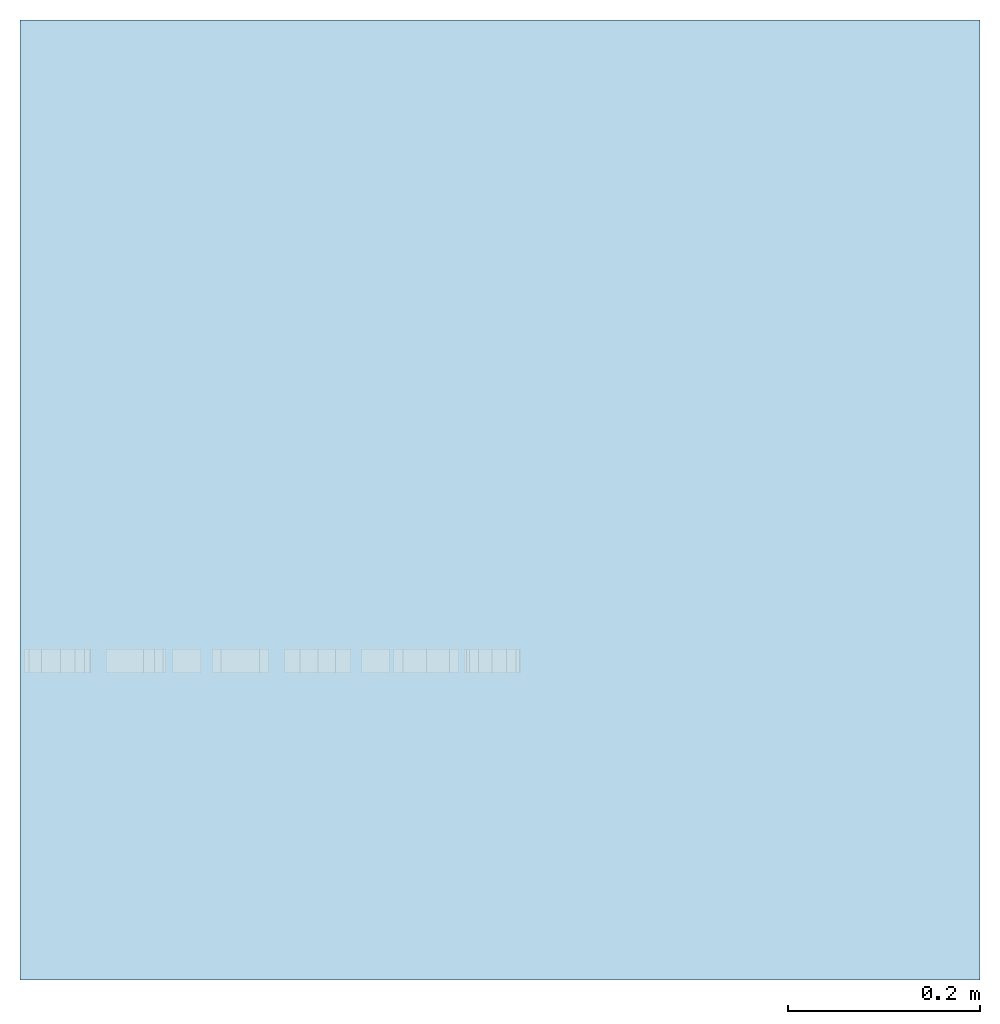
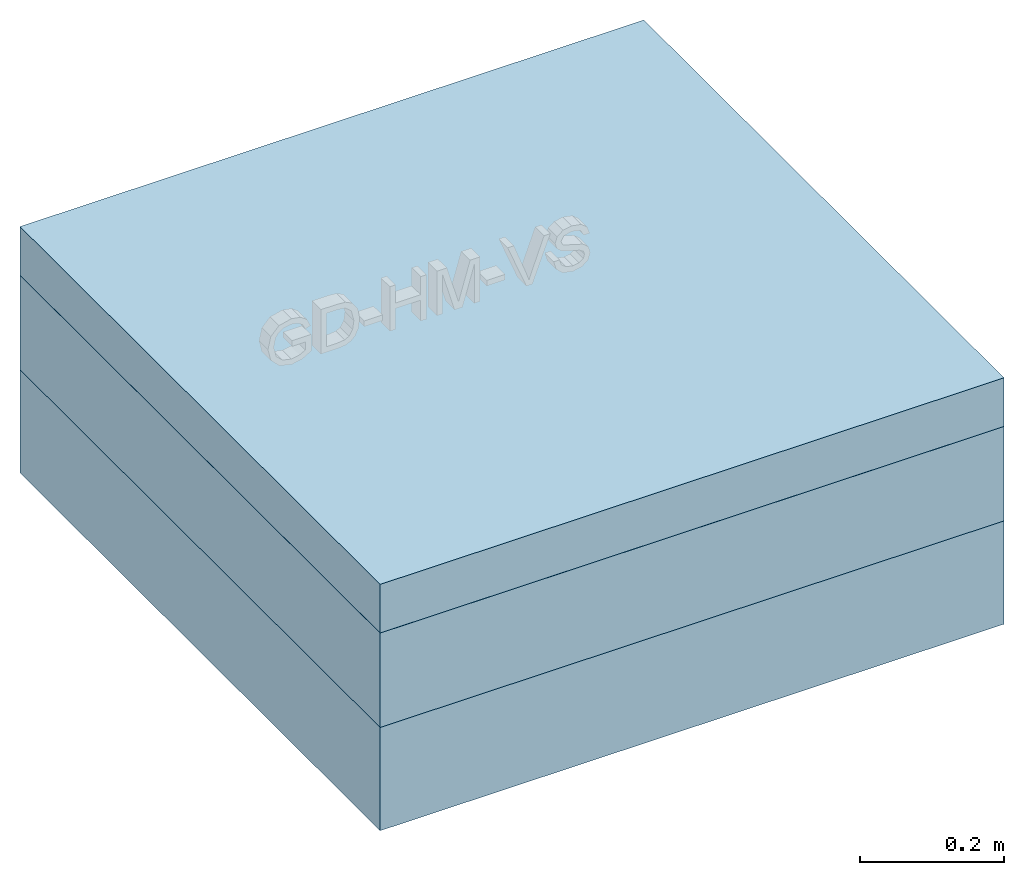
# Not in any storey, part 1 of 2: 3 slabs, 1 element without a shape of its own.
"""IFC4 model written with IfcOpenShell, lengths in metres."""

from ifc_helpers import new_model, entity, si_unit, converted_unit, derived_unit, direction, frame, origin, place, context, subcontext, project, spatial, indexed_curve, outline, extrude, material, constituent, constituent_set, type_object, element, aggregate, save


model = new_model("IFC4")

# Units and contexts
model_context = context("Model", 3, precision=1e-05, world=origin(), true_north=direction((6.123031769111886e-17, 1.0)))
body_context = subcontext(model_context, "Body", "Model", "MODEL_VIEW")
ifc_project = project(units=[si_unit("LENGTHUNIT", "METRE"), si_unit("AREAUNIT", "SQUARE_METRE"), si_unit("VOLUMEUNIT", "CUBIC_METRE"), converted_unit("PLANEANGLEUNIT", "DEGREE", entity("IfcRatioMeasure", 0.017453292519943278), si_unit("PLANEANGLEUNIT", "RADIAN"), dimensions=[0, 0, 0, 0, 0, 0, 0]), si_unit("MASSUNIT", "GRAM", prefix="KILO"), derived_unit("MASSDENSITYUNIT", [(si_unit("MASSUNIT", "GRAM", prefix="KILO"), 1), (si_unit("LENGTHUNIT", "METRE"), -3)]), derived_unit("IONCONCENTRATIONUNIT", [(si_unit("MASSUNIT", "GRAM", prefix="KILO"), 1), (si_unit("LENGTHUNIT", "METRE"), -3)]), derived_unit("MOMENTOFINERTIAUNIT", [(si_unit("LENGTHUNIT", "METRE"), 4)]), si_unit("TIMEUNIT", "SECOND"), si_unit("FREQUENCYUNIT", "HERTZ"), si_unit("THERMODYNAMICTEMPERATUREUNIT", "DEGREE_CELSIUS"), derived_unit("THERMALTRANSMITTANCEUNIT", [(si_unit("MASSUNIT", "GRAM", prefix="KILO"), 1), (si_unit("THERMODYNAMICTEMPERATUREUNIT", "KELVIN"), -1), (si_unit("TIMEUNIT", "SECOND"), -3)]), derived_unit("THERMALCONDUCTANCEUNIT", [(si_unit("MASSUNIT", "GRAM", prefix="KILO"), 1), (si_unit("THERMODYNAMICTEMPERATUREUNIT", "KELVIN"), -1), (si_unit("TIMEUNIT", "SECOND"), -3), (si_unit("LENGTHUNIT", "METRE"), 1)]), derived_unit("VOLUMETRICFLOWRATEUNIT", [(si_unit("LENGTHUNIT", "METRE"), 3), (si_unit("TIMEUNIT", "SECOND"), -1)]), derived_unit("MASSFLOWRATEUNIT", [(si_unit("MASSUNIT", "GRAM", prefix="KILO"), 1), (si_unit("TIMEUNIT", "SECOND"), -1)]), derived_unit("ROTATIONALFREQUENCYUNIT", [(si_unit("TIMEUNIT", "SECOND"), -1)]), si_unit("ELECTRICCURRENTUNIT", "AMPERE"), si_unit("ELECTRICVOLTAGEUNIT", "VOLT"), si_unit("POWERUNIT", "WATT"), si_unit("FORCEUNIT", "NEWTON", prefix="KILO"), si_unit("ILLUMINANCEUNIT", "LUX"), si_unit("LUMINOUSFLUXUNIT", "LUMEN"), si_unit("LUMINOUSINTENSITYUNIT", "CANDELA"), derived_unit("USERDEFINED", [(si_unit("MASSUNIT", "GRAM", prefix="KILO"), -1), (si_unit("LENGTHUNIT", "METRE"), -2), (si_unit("TIMEUNIT", "SECOND"), 3), (si_unit("LUMINOUSFLUXUNIT", "LUMEN"), 1)]), derived_unit("USERDEFINED", [(si_unit("MASSUNIT", "GRAM", prefix="KILO"), 1), (si_unit("TIMEUNIT", "SECOND"), -3), (si_unit("LENGTHUNIT", "METRE"), 3), (si_unit("ELECTRICCURRENTUNIT", "AMPERE"), -2)]), derived_unit("SOUNDPOWERUNIT", [(si_unit("MASSUNIT", "GRAM", prefix="KILO"), 1), (si_unit("TIMEUNIT", "SECOND"), -3), (si_unit("LENGTHUNIT", "METRE"), 2)]), derived_unit("SOUNDPRESSUREUNIT", [(si_unit("MASSUNIT", "GRAM", prefix="KILO"), 1), (si_unit("LENGTHUNIT", "METRE"), -1), (si_unit("TIMEUNIT", "SECOND"), -2)]), derived_unit("LINEARVELOCITYUNIT", [(si_unit("LENGTHUNIT", "METRE"), 1), (si_unit("TIMEUNIT", "SECOND"), -1)]), si_unit("PRESSUREUNIT", "PASCAL"), derived_unit("USERDEFINED", [(si_unit("MASSUNIT", "GRAM", prefix="KILO"), 1), (si_unit("LENGTHUNIT", "METRE"), -2), (si_unit("TIMEUNIT", "SECOND"), -2)]), derived_unit("LINEARFORCEUNIT", [(si_unit("MASSUNIT", "GRAM", prefix="KILO"), 1), (si_unit("TIMEUNIT", "SECOND"), -2)]), derived_unit("PLANARFORCEUNIT", [(si_unit("MASSUNIT", "GRAM", prefix="KILO"), 1), (si_unit("LENGTHUNIT", "METRE"), -1), (si_unit("TIMEUNIT", "SECOND"), -2)]), derived_unit("SPECIFICHEATCAPACITYUNIT", [(si_unit("THERMODYNAMICTEMPERATUREUNIT", "KELVIN"), -1), (si_unit("LENGTHUNIT", "METRE"), 2), (si_unit("TIMEUNIT", "SECOND"), -2)]), derived_unit("HEATINGVALUEUNIT", [(si_unit("LENGTHUNIT", "METRE"), 2), (si_unit("TIMEUNIT", "SECOND"), -2)]), derived_unit("VAPORPERMEABILITYUNIT", [(si_unit("LENGTHUNIT", "METRE"), -1), (si_unit("TIMEUNIT", "SECOND"), 1)]), derived_unit("DYNAMICVISCOSITYUNIT", [(si_unit("MASSUNIT", "GRAM", prefix="KILO"), 1), (si_unit("TIMEUNIT", "SECOND"), -1), (si_unit("LENGTHUNIT", "METRE"), -1)]), derived_unit("THERMALEXPANSIONCOEFFICIENTUNIT", [(si_unit("THERMODYNAMICTEMPERATUREUNIT", "KELVIN"), -1)]), derived_unit("MODULUSOFELASTICITYUNIT", [(si_unit("MASSUNIT", "GRAM", prefix="KILO"), 1), (si_unit("LENGTHUNIT", "METRE"), -1), (si_unit("TIMEUNIT", "SECOND"), -2)]), derived_unit("ISOTHERMALMOISTURECAPACITYUNIT", [(si_unit("LENGTHUNIT", "METRE"), 3), (si_unit("MASSUNIT", "GRAM", prefix="KILO"), -1)]), derived_unit("MOISTUREDIFFUSIVITYUNIT", [(si_unit("TIMEUNIT", "SECOND"), -1), (si_unit("LENGTHUNIT", "METRE"), 2)])], contexts=[model_context])

# Site
site_placement = place(None, origin())
site = spatial("IfcSite", under=ifc_project, at=site_placement, Name="Default", CompositionType="ELEMENT")

# Assembly, slabs
ifc_material_1 = material(Name="fbim_14100590_AT_001_Luftschicht")
ifc_constituent_1 = constituent(ifc_material_1, Name="fbim_14100590_AT_001_Luftschicht")
ifc_material_2 = material(Name="fbim_14101045_AT_034_Mineralwolle_Daemmfilz")
ifc_constituent_2 = constituent(ifc_material_2, Name="fbim_14101045_AT_034_Mineralwolle_Daemmfilz")
ifc_material_3 = material(Name="fbim_14101050_AT_Mineralwolldaemmung")
ifc_constituent_3 = constituent(ifc_material_3, Name="fbim_14101050_AT_Mineralwolldaemmung")
ifc_material_4 = material(Name="fbim_16101505_AT_Gipsfaserplatte", Category="Gipsputz")
ifc_constituent_4 = constituent(ifc_material_4, Name="fbim_16101505_AT_Gipsfaserplatte", Category="Gipsputz")
ifc_constituent_set_1 = constituent_set(constituents=[ifc_constituent_1, ifc_constituent_2, ifc_constituent_3, ifc_constituent_4], Name="Geschossdecke:fbimSg_Floor_dp_INS_vis_at_NTR_natuREbuilt_MhD_GK3_o_17,5cm")
assembly_placement = place(site_placement, origin())
assembly = element("IfcElementAssembly", 1, at=assembly_placement, inside=site, material=ifc_constituent_set_1, Name="Geschossdecken Baugruppe:fbimSg_Slab_bc_WOD_vis_at_NTR_natuREbuilt_GD-HM-VS_GK3_42cm", ObjectType="Geschossdecken Baugruppe:fbimSg_Slab_bc_WOD_vis_at_NTR_natuREbuilt_GD-HM-VS_GK3_42cm", AssemblyPlace="NOTDEFINED", PredefinedType="USERDEFINED")
slab_type_1 = type_object("IfcSlabType", Name="Geschossdecke:fbimSg_Floor_dp_INS_vis_at_NTR_natuREbuilt_MhD_GK3_o_17,5cm", PredefinedType="FLOOR", material=ifc_constituent_set_1)
slab_1_placement = place(assembly_placement, origin())
slab_1 = element("IfcSlab", 2, at=slab_1_placement, type_object=slab_type_1, Name="Geschossdecke:fbimSg_Floor_dp_INS_vis_at_NTR_natuREbuilt_MhD_GK3_o_17,5cm", ObjectType="Geschossdecke:fbimSg_Floor_dp_INS_vis_at_NTR_natuREbuilt_MhD_GK3_o_17,5cm", PredefinedType="FLOOR", context=body_context, shape_type="SweptSolid", body=[
    extrude(outline(indexed_curve([(-0.5, -0.49999999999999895), (0.5, -0.49999999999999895), (0.5, 0.49999999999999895), (-0.5, 0.49999999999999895), (-0.5, -0.49999999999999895)], self_intersect=False)), frame((7.40560163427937, 43.0146922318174, 1.923130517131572), z_axis=(0.0, 0.0, 1.0), x_axis=(-1.0, 0.0, 0.0)), (0.0, 0.0, 1.0), 0.009999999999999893),
    extrude(outline(indexed_curve([(-0.5, -0.49999999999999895), (0.5, -0.49999999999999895), (0.5, 0.49999999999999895), (-0.5, 0.49999999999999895), (-0.5, -0.49999999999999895)], self_intersect=False)), frame((7.40560163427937, 43.0146922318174, 1.903130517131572), z_axis=(0.0, 0.0, 1.0), x_axis=(-1.0, 0.0, 0.0)), (0.0, 0.0, 1.0), 0.020000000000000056),
    extrude(outline(indexed_curve([(-0.5, -0.49999999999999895), (0.5, -0.49999999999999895), (0.5, 0.49999999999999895), (-0.5, 0.49999999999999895), (-0.5, -0.49999999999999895)], self_intersect=False)), frame((7.40560163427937, 43.0146922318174, 1.863130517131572), z_axis=(0.0, 0.0, 1.0), x_axis=(-1.0, 0.0, 0.0)), (0.0, 0.0, 1.0), 0.04000000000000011),
    extrude(outline(indexed_curve([(-0.5, -0.49999999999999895), (0.5, -0.49999999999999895), (0.5, 0.49999999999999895), (-0.5, 0.49999999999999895), (-0.5, -0.49999999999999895)], self_intersect=False)), frame((7.40560163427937, 43.0146922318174, 1.850630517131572), z_axis=(0.0, 0.0, 1.0), x_axis=(-1.0, 0.0, 0.0)), (0.0, 0.0, 1.0), 0.012499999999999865),
])
ifc_material_5 = material(Name="fbim_AT_KLH_Massivholz")
slab_type_2 = type_object("IfcSlabType", Name="Geschossdecke:fbimSg_Slab_sb_WOD_vis_at_NTR_natuREbuilt_MhD_GK3_k_16cm", PredefinedType="FLOOR", material=ifc_material_5)
slab_2_placement = place(assembly_placement, origin())
slab_2 = element("IfcSlab", 3, at=slab_2_placement, type_object=slab_type_2, material=ifc_material_5, Name="Geschossdecke:fbimSg_Slab_sb_WOD_vis_at_NTR_natuREbuilt_MhD_GK3_k_16cm", ObjectType="Geschossdecke:fbimSg_Slab_sb_WOD_vis_at_NTR_natuREbuilt_MhD_GK3_k_16cm", PredefinedType="FLOOR", context=body_context, shape_type="SweptSolid", body=[
    extrude(outline(indexed_curve([(-0.49999999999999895, -0.5000000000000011), (0.49999999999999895, -0.5000000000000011), (0.49999999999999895, 0.49999999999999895), (-0.49999999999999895, 0.49999999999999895), (-0.49999999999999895, -0.5000000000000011)], self_intersect=False)), frame((7.40560163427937, 43.0146922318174, 1.850630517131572), z_axis=(0.0, 0.0, -1.0), x_axis=(0.0, 1.0, 0.0)), (0.0, 0.0, 1.0), 0.1599999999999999),
])
ifc_material_6 = material(Name="fbim_18108010_AT_015_Parkettboden")
ifc_constituent_5 = constituent(ifc_material_6, Name="fbim_18108010_AT_015_Parkettboden")
ifc_material_7 = material(Name="fbim_16051005_AT_225_Estrichbeton_E225")
ifc_constituent_6 = constituent(ifc_material_7, Name="fbim_16051005_AT_225_Estrichbeton_E225")
ifc_material_8 = material(Name="fbim_14104050_AT_035_MW-Trittschalldaemmplatte")
ifc_constituent_7 = constituent(ifc_material_8, Name="fbim_14104050_AT_035_MW-Trittschalldaemmplatte")
ifc_material_9 = material(Name="fbim_10053020_AT_024_Splitt_2-4")
ifc_constituent_8 = constituent(ifc_material_9, Name="fbim_10053020_AT_024_Splitt_2-4")
ifc_constituent_set_2 = constituent_set(constituents=[ifc_constituent_5, ifc_constituent_6, ifc_constituent_7, ifc_constituent_8], Name="Geschossdecke:fbimSg_Slab_dp_DRW_vis_at_NTR_natuREbuilt_MhD_GK3_u_6cm")
slab_type_3 = type_object("IfcSlabType", Name="Geschossdecke:fbimSg_Slab_dp_DRW_vis_at_NTR_natuREbuilt_MhD_GK3_u_6cm", PredefinedType="FLOOR", material=ifc_constituent_set_2)
slab_3_placement = place(assembly_placement, origin())
slab_3 = element("IfcSlab", 4, at=slab_3_placement, type_object=slab_type_3, material=ifc_constituent_set_2, Name="Geschossdecke:fbimSg_Slab_dp_DRW_vis_at_NTR_natuREbuilt_MhD_GK3_u_6cm", ObjectType="Geschossdecke:fbimSg_Slab_dp_DRW_vis_at_NTR_natuREbuilt_MhD_GK3_u_6cm", PredefinedType="FLOOR", context=body_context, shape_type="SweptSolid", body=[
    extrude(outline(indexed_curve([(-0.49999999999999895, -0.49999999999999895), (0.5000000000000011, -0.5000000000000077), (0.5000000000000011, 0.49999999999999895), (-0.49999999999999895, 0.49999999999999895), (-0.49999999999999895, -0.49999999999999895)], self_intersect=False)), frame((7.40560163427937, 43.0146922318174, 1.675630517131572), z_axis=(0.0, 0.0, 1.0), x_axis=(-1.0, 0.0, 0.0)), (0.0, 0.0, 1.0), 0.015000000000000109),
    extrude(outline(indexed_curve([(-0.49999999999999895, -0.49999999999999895), (0.5000000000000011, -0.49999999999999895), (0.5000000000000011, 0.49999999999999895), (-0.49999999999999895, 0.49999999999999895), (-0.49999999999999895, -0.49999999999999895)], self_intersect=False)), frame((7.40560163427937, 43.0146922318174, 1.6056305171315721), z_axis=(0.0, 0.0, 1.0), x_axis=(-1.0, 0.0, 0.0)), (0.0, 0.0, 1.0), 0.06999999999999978),
    extrude(outline(indexed_curve([(-0.49999999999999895, -0.49999999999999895), (0.5000000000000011, -0.49999999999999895), (0.5000000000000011, 0.49999999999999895), (-0.49999999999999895, 0.49999999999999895), (-0.49999999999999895, -0.49999999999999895)], self_intersect=False)), frame((7.40560163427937, 43.0146922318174, 1.575630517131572), z_axis=(0.0, 0.0, 1.0), x_axis=(-1.0, 0.0, 0.0)), (0.0, 0.0, 1.0), 0.030000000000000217),
    extrude(outline(indexed_curve([(-0.49999999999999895, -0.49999999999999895), (0.5000000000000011, -0.49999999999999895), (0.5000000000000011, 0.49999999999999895), (-0.49999999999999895, 0.49999999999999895), (-0.49999999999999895, -0.49999999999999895)], self_intersect=False)), frame((7.40560163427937, 43.0146922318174, 1.515630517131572), z_axis=(0.0, 0.0, 1.0), x_axis=(-1.0, 0.0, 0.0)), (0.0, 0.0, 1.0), 0.059999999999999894),
])
aggregate(assembly, [slab_1, slab_2, slab_3])

save(model, "model.ifc")
